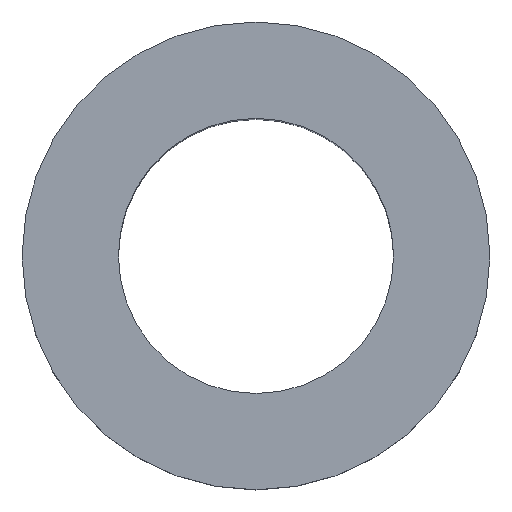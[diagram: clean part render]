
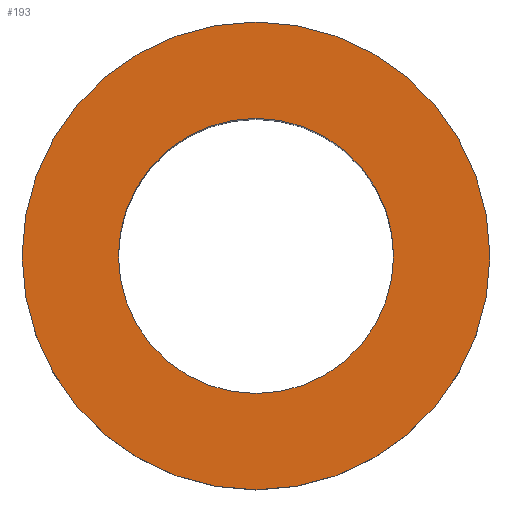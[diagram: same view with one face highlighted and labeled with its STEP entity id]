
A CAD part, top view. The second image highlights one B-rep face of the part: STEP entity #193.
In plain terms, the highlighted planar face has unit normal (0, 0, 1).
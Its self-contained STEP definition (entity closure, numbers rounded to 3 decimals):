
#193=ADVANCED_FACE('',(#223,#224),#220,.T.);
#220=PLANE('',#486);
#223=FACE_BOUND('',#229,.T.);
#224=FACE_BOUND('',#230,.T.);
#229=EDGE_LOOP('',(#259,#260));
#230=EDGE_LOOP('',(#261,#262));
#259=ORIENTED_EDGE('',*,*,#397,.T.);
#260=ORIENTED_EDGE('',*,*,#398,.T.);
#261=ORIENTED_EDGE('',*,*,#399,.F.);
#262=ORIENTED_EDGE('',*,*,#400,.F.);
#367=VERTEX_POINT('',#681);
#368=VERTEX_POINT('',#682);
#369=VERTEX_POINT('',#685);
#370=VERTEX_POINT('',#686);
#397=EDGE_CURVE('',#367,#368,#451,.T.);
#398=EDGE_CURVE('',#368,#367,#452,.T.);
#399=EDGE_CURVE('',#369,#370,#453,.T.);
#400=EDGE_CURVE('',#370,#369,#454,.T.);
#451=CIRCLE('',#482,8.5);
#452=CIRCLE('',#483,8.5);
#453=CIRCLE('',#484,5.);
#454=CIRCLE('',#485,5.);
#482=AXIS2_PLACEMENT_3D('',#680,#541,#542);
#483=AXIS2_PLACEMENT_3D('',#683,#543,#544);
#484=AXIS2_PLACEMENT_3D('',#684,#545,#546);
#485=AXIS2_PLACEMENT_3D('',#687,#547,#548);
#486=AXIS2_PLACEMENT_3D('',#688,#549,#550);
#541=DIRECTION('',(0.,0.,1.));
#542=DIRECTION('',(0.,1.,0.));
#543=DIRECTION('',(0.,0.,1.));
#544=DIRECTION('',(0.,-1.,0.));
#545=DIRECTION('',(0.,0.,1.));
#546=DIRECTION('',(0.,-1.,0.));
#547=DIRECTION('',(0.,0.,1.));
#548=DIRECTION('',(0.,1.,0.));
#549=DIRECTION('',(0.,0.,1.));
#550=DIRECTION('',(0.,1.,0.));
#680=CARTESIAN_POINT('',(0.,0.,3.));
#681=CARTESIAN_POINT('',(-8.5,0.,3.));
#682=CARTESIAN_POINT('',(8.5,0.,3.));
#683=CARTESIAN_POINT('',(0.,0.,3.));
#684=CARTESIAN_POINT('',(0.,0.,3.));
#685=CARTESIAN_POINT('',(5.,0.,3.));
#686=CARTESIAN_POINT('',(-5.,0.,3.));
#687=CARTESIAN_POINT('',(0.,0.,3.));
#688=CARTESIAN_POINT('',(0.,0.,3.));
